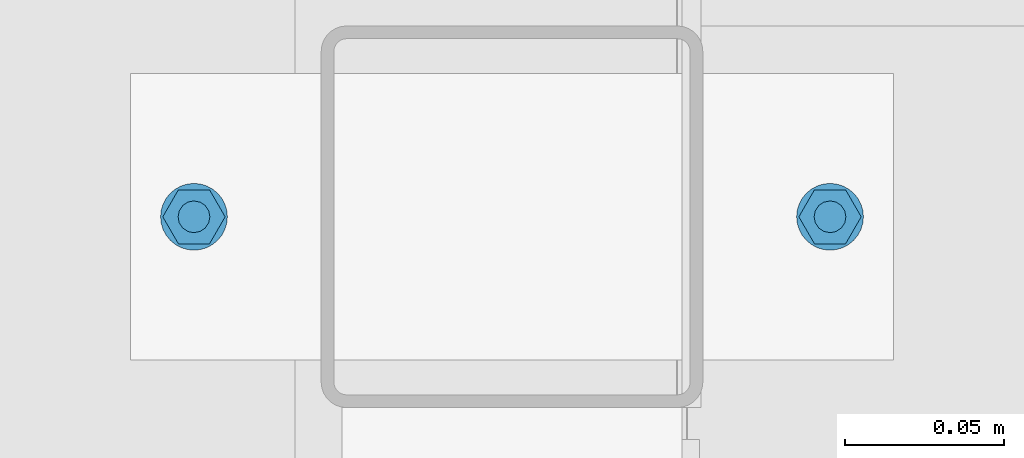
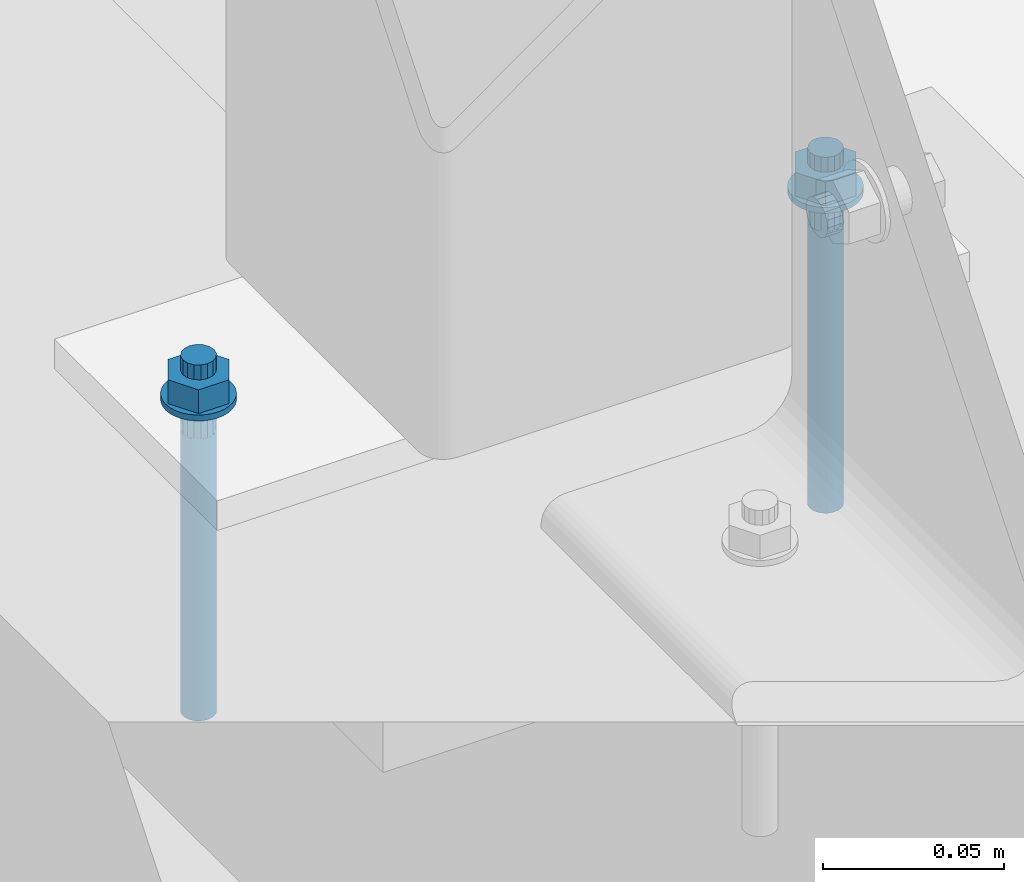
# One storey, part 252 of 476: 1 mechanical fastener.
"""IFC2X3 building model written with IfcOpenShell, lengths in millimetres."""

from ifc_helpers import new_model, entity, si_unit, converted_unit, origin_with_axes, place, context, project, spatial, faceted_brep, element, save


model = new_model("IFC2X3")

# Units and contexts
model_context = context("Model", 3, precision=1e-09, world=origin_with_axes())
ifc_project = project(units=[si_unit("LENGTHUNIT", "METRE", prefix="MILLI"), si_unit("AREAUNIT", "SQUARE_METRE"), si_unit("VOLUMEUNIT", "CUBIC_METRE"), converted_unit("PLANEANGLEUNIT", "DEGREE", entity("IfcPlaneAngleMeasure", 0.01745329), si_unit("PLANEANGLEUNIT", "RADIAN"), dimensions=[0, 0, 0, 0, 0, 0, 0])], contexts=[model_context])

# Site, building, storey
site_placement = place(None, origin_with_axes())
site = spatial("IfcSite", under=ifc_project, at=site_placement, Name="mKR Teilneubau & Sanierung BA1 - Ostfildern", CompositionType="ELEMENT")
building_placement = place(site_placement, origin_with_axes())
building = spatial("IfcBuilding", under=site, at=building_placement, Name="Struktur 1", CompositionType="ELEMENT")
storey_placement = place(building_placement, origin_with_axes())
storey = spatial("IfcBuildingStorey", under=building, at=storey_placement, Name="Default Storey", CompositionType="ELEMENT", Elevation=0.0)

# Mechanical fastener
mechanical_fastener_placement = place(None, origin_with_axes())
element("IfcMechanicalFastener", 1, at=mechanical_fastener_placement, inside=storey, ObjectType="Anchor_Bolt#1", NominalDiameter=10.0, NominalLength=120.0, context=model_context, shape_type="Brep", body=[
    faceted_brep([(22072.108734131, -2068.604698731, 527.0), (22072.108734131, -2068.604698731, 525.0), (22070.06028575, -2068.806453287, 525.0), (22070.06028575, -2068.806453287, 527.0), (22068.090558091, -2069.40396364, 525.0), (22068.090558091, -2069.40396364, 527.0), (22066.275246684, -2070.374267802, 525.0), (22066.275246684, -2070.374267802, 527.0), (22064.684112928, -2071.680077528, 525.0), (22064.684112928, -2071.680077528, 527.0), (22063.378303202, -2073.271211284, 525.0), (22063.378303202, -2073.271211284, 527.0), (22062.407999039, -2075.086522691, 525.0), (22062.407999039, -2075.086522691, 527.0), (22061.810488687, -2077.05625035, 525.0), (22061.810488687, -2077.05625035, 527.0), (22061.608734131, -2079.104698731, 525.0), (22061.608734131, -2079.104698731, 527.0), (22061.810488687, -2081.153147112, 525.0), (22061.810488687, -2081.153147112, 527.0), (22062.407999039, -2083.122874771, 525.0), (22062.407999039, -2083.122874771, 527.0), (22063.378303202, -2084.938186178, 525.0), (22063.378303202, -2084.938186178, 527.0), (22064.684112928, -2086.529319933, 525.0), (22064.684112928, -2086.529319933, 527.0), (22066.275246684, -2087.83512966, 525.0), (22066.275246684, -2087.83512966, 527.0), (22068.090558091, -2088.805433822, 525.0), (22068.090558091, -2088.805433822, 527.0), (22070.06028575, -2089.402944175, 525.0), (22070.06028575, -2089.402944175, 527.0), (22072.108734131, -2089.604698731, 525.0), (22072.108734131, -2089.604698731, 527.0), (22074.157182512, -2089.402944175, 525.0), (22074.157182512, -2089.402944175, 527.0), (22076.126910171, -2088.805433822, 525.0), (22076.126910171, -2088.805433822, 527.0), (22077.942221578, -2087.83512966, 525.0), (22077.942221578, -2087.83512966, 527.0), (22079.533355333, -2086.529319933, 525.0), (22079.533355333, -2086.529319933, 527.0), (22080.83916506, -2084.938186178, 525.0), (22080.83916506, -2084.938186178, 527.0), (22081.809469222, -2083.122874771, 525.0), (22081.809469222, -2083.122874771, 527.0), (22082.406979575, -2081.153147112, 525.0), (22082.406979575, -2081.153147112, 527.0), (22082.608734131, -2079.104698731, 525.0), (22082.608734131, -2079.104698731, 527.0), (22082.406979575, -2077.05625035, 525.0), (22082.406979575, -2077.05625035, 527.0), (22081.809469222, -2075.086522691, 525.0), (22081.809469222, -2075.086522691, 527.0), (22080.83916506, -2073.271211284, 525.0), (22080.83916506, -2073.271211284, 527.0), (22079.533355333, -2071.680077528, 525.0), (22079.533355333, -2071.680077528, 527.0), (22077.942221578, -2070.374267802, 525.0), (22077.942221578, -2070.374267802, 527.0), (22076.126910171, -2069.40396364, 525.0), (22076.126910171, -2069.40396364, 527.0), (22074.157182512, -2068.806453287, 525.0), (22074.157182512, -2068.806453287, 527.0)], [[[0, 1, 2, 3]], [[3, 2, 4, 5]], [[5, 4, 6, 7]], [[7, 6, 8, 9]], [[9, 8, 10, 11]], [[11, 10, 12, 13]], [[13, 12, 14, 15]], [[15, 14, 16, 17]], [[17, 16, 18, 19]], [[19, 18, 20, 21]], [[21, 20, 22, 23]], [[23, 22, 24, 25]], [[25, 24, 26, 27]], [[27, 26, 28, 29]], [[29, 28, 30, 31]], [[31, 30, 32, 33]], [[33, 32, 34, 35]], [[35, 34, 36, 37]], [[37, 36, 38, 39]], [[39, 38, 40, 41]], [[41, 40, 42, 43]], [[43, 42, 44, 45]], [[45, 44, 46, 47]], [[47, 46, 48, 49]], [[49, 48, 50, 51]], [[51, 50, 52, 53]], [[53, 52, 54, 55]], [[55, 54, 56, 57]], [[57, 56, 58, 59]], [[59, 58, 60, 61]], [[61, 60, 62, 63]], [[63, 62, 1, 0]], [[0, 3, 5, 7, 9, 11, 13, 15, 17, 19, 21, 23, 25, 27, 29, 31, 33, 35, 37, 39, 41, 43, 45, 47, 49, 51, 53, 55, 57, 59, 61, 63]], [[1, 62, 60, 58, 56, 54, 52, 50, 48, 46, 44, 42, 40, 38, 36, 34, 32, 30, 28, 26, 24, 22, 20, 18, 16, 14, 12, 10, 8, 6, 4, 2]]]),
    faceted_brep([(21872.108734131, -2068.604698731, 527.0), (21872.108734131, -2068.604698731, 525.0), (21870.06028575, -2068.806453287, 525.0), (21870.06028575, -2068.806453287, 527.0), (21868.090558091, -2069.40396364, 525.0), (21868.090558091, -2069.40396364, 527.0), (21866.275246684, -2070.374267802, 525.0), (21866.275246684, -2070.374267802, 527.0), (21864.684112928, -2071.680077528, 525.0), (21864.684112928, -2071.680077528, 527.0), (21863.378303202, -2073.271211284, 525.0), (21863.378303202, -2073.271211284, 527.0), (21862.407999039, -2075.086522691, 525.0), (21862.407999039, -2075.086522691, 527.0), (21861.810488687, -2077.05625035, 525.0), (21861.810488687, -2077.05625035, 527.0), (21861.608734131, -2079.104698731, 525.0), (21861.608734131, -2079.104698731, 527.0), (21861.810488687, -2081.153147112, 525.0), (21861.810488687, -2081.153147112, 527.0), (21862.407999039, -2083.122874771, 525.0), (21862.407999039, -2083.122874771, 527.0), (21863.378303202, -2084.938186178, 525.0), (21863.378303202, -2084.938186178, 527.0), (21864.684112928, -2086.529319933, 525.0), (21864.684112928, -2086.529319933, 527.0), (21866.275246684, -2087.83512966, 525.0), (21866.275246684, -2087.83512966, 527.0), (21868.090558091, -2088.805433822, 525.0), (21868.090558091, -2088.805433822, 527.0), (21870.06028575, -2089.402944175, 525.0), (21870.06028575, -2089.402944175, 527.0), (21872.108734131, -2089.604698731, 525.0), (21872.108734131, -2089.604698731, 527.0), (21874.157182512, -2089.402944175, 525.0), (21874.157182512, -2089.402944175, 527.0), (21876.126910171, -2088.805433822, 525.0), (21876.126910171, -2088.805433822, 527.0), (21877.942221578, -2087.83512966, 525.0), (21877.942221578, -2087.83512966, 527.0), (21879.533355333, -2086.529319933, 525.0), (21879.533355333, -2086.529319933, 527.0), (21880.83916506, -2084.938186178, 525.0), (21880.83916506, -2084.938186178, 527.0), (21881.809469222, -2083.122874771, 525.0), (21881.809469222, -2083.122874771, 527.0), (21882.406979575, -2081.153147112, 525.0), (21882.406979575, -2081.153147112, 527.0), (21882.608734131, -2079.104698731, 525.0), (21882.608734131, -2079.104698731, 527.0), (21882.406979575, -2077.05625035, 525.0), (21882.406979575, -2077.05625035, 527.0), (21881.809469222, -2075.086522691, 525.0), (21881.809469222, -2075.086522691, 527.0), (21880.83916506, -2073.271211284, 525.0), (21880.83916506, -2073.271211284, 527.0), (21879.533355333, -2071.680077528, 525.0), (21879.533355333, -2071.680077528, 527.0), (21877.942221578, -2070.374267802, 525.0), (21877.942221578, -2070.374267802, 527.0), (21876.126910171, -2069.40396364, 525.0), (21876.126910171, -2069.40396364, 527.0), (21874.157182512, -2068.806453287, 525.0), (21874.157182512, -2068.806453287, 527.0)], [[[0, 1, 2, 3]], [[3, 2, 4, 5]], [[5, 4, 6, 7]], [[7, 6, 8, 9]], [[9, 8, 10, 11]], [[11, 10, 12, 13]], [[13, 12, 14, 15]], [[15, 14, 16, 17]], [[17, 16, 18, 19]], [[19, 18, 20, 21]], [[21, 20, 22, 23]], [[23, 22, 24, 25]], [[25, 24, 26, 27]], [[27, 26, 28, 29]], [[29, 28, 30, 31]], [[31, 30, 32, 33]], [[33, 32, 34, 35]], [[35, 34, 36, 37]], [[37, 36, 38, 39]], [[39, 38, 40, 41]], [[41, 40, 42, 43]], [[43, 42, 44, 45]], [[45, 44, 46, 47]], [[47, 46, 48, 49]], [[49, 48, 50, 51]], [[51, 50, 52, 53]], [[53, 52, 54, 55]], [[55, 54, 56, 57]], [[57, 56, 58, 59]], [[59, 58, 60, 61]], [[61, 60, 62, 63]], [[63, 62, 1, 0]], [[0, 3, 5, 7, 9, 11, 13, 15, 17, 19, 21, 23, 25, 27, 29, 31, 33, 35, 37, 39, 41, 43, 45, 47, 49, 51, 53, 55, 57, 59, 61, 63]], [[1, 62, 60, 58, 56, 54, 52, 50, 48, 46, 44, 42, 40, 38, 36, 34, 32, 30, 28, 26, 24, 22, 20, 18, 16, 14, 12, 10, 8, 6, 4, 2]]]),
    faceted_brep([(22067.208734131, -2087.591747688, 527.0), (22067.208734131, -2087.591747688, 535.0), (22062.308734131, -2079.104698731, 535.0), (22062.308734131, -2079.104698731, 527.0), (22067.208734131, -2070.617649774, 535.0), (22067.208734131, -2070.617649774, 527.0), (22077.008734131, -2070.617649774, 535.0), (22077.008734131, -2070.617649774, 527.0), (22081.908734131, -2079.104698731, 535.0), (22081.908734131, -2079.104698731, 527.0), (22077.008734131, -2087.591747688, 535.0), (22077.008734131, -2087.591747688, 527.0)], [[[0, 1, 2, 3]], [[3, 2, 4, 5]], [[5, 4, 6, 7]], [[7, 6, 8, 9]], [[9, 8, 10, 11]], [[11, 10, 1, 0]], [[4, 2, 1, 10, 8, 6]], [[0, 3, 5, 7, 9, 11]]]),
    faceted_brep([(21867.208734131, -2087.591747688, 527.0), (21867.208734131, -2087.591747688, 535.0), (21862.308734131, -2079.104698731, 535.0), (21862.308734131, -2079.104698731, 527.0), (21867.208734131, -2070.617649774, 535.0), (21867.208734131, -2070.617649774, 527.0), (21877.008734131, -2070.617649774, 535.0), (21877.008734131, -2070.617649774, 527.0), (21881.908734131, -2079.104698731, 535.0), (21881.908734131, -2079.104698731, 527.0), (21877.008734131, -2087.591747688, 535.0), (21877.008734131, -2087.591747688, 527.0)], [[[0, 1, 2, 3]], [[3, 2, 4, 5]], [[5, 4, 6, 7]], [[7, 6, 8, 9]], [[9, 8, 10, 11]], [[11, 10, 1, 0]], [[4, 2, 1, 10, 8, 6]], [[0, 3, 5, 7, 9, 11]]]),
    faceted_brep([(22072.108734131, -2074.104698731, 540.0), (22072.108734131, -2074.104698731, 535.0), (22070.195316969, -2074.485301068, 535.0), (22070.195316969, -2074.485301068, 540.0), (22068.573200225, -2075.569164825, 535.0), (22068.573200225, -2075.569164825, 540.0), (22067.489336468, -2077.191281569, 535.0), (22067.489336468, -2077.191281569, 540.0), (22067.108734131, -2079.104698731, 535.0), (22067.108734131, -2079.104698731, 540.0), (22067.489336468, -2081.018115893, 535.0), (22067.489336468, -2081.018115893, 540.0), (22068.573200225, -2082.640232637, 535.0), (22068.573200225, -2082.640232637, 540.0), (22070.195316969, -2083.724096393, 535.0), (22070.195316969, -2083.724096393, 540.0), (22072.108734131, -2084.104698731, 535.0), (22072.108734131, -2084.104698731, 540.0), (22074.022151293, -2083.724096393, 535.0), (22074.022151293, -2083.724096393, 540.0), (22075.644268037, -2082.640232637, 535.0), (22075.644268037, -2082.640232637, 540.0), (22076.728131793, -2081.018115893, 535.0), (22076.728131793, -2081.018115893, 540.0), (22077.108734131, -2079.104698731, 535.0), (22077.108734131, -2079.104698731, 540.0), (22076.728131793, -2077.191281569, 535.0), (22076.728131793, -2077.191281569, 540.0), (22075.644268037, -2075.569164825, 535.0), (22075.644268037, -2075.569164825, 540.0), (22074.022151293, -2074.485301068, 535.0), (22074.022151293, -2074.485301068, 540.0)], [[[0, 1, 2, 3]], [[3, 2, 4, 5]], [[5, 4, 6, 7]], [[7, 6, 8, 9]], [[9, 8, 10, 11]], [[11, 10, 12, 13]], [[13, 12, 14, 15]], [[15, 14, 16, 17]], [[17, 16, 18, 19]], [[19, 18, 20, 21]], [[21, 20, 22, 23]], [[23, 22, 24, 25]], [[25, 24, 26, 27]], [[27, 26, 28, 29]], [[29, 28, 30, 31]], [[31, 30, 1, 0]], [[0, 3, 5, 7, 9, 11, 13, 15, 17, 19, 21, 23, 25, 27, 29, 31]], [[1, 30, 28, 26, 24, 22, 20, 18, 16, 14, 12, 10, 8, 6, 4, 2]]]),
    faceted_brep([(21872.108734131, -2074.104698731, 540.0), (21872.108734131, -2074.104698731, 535.0), (21870.195316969, -2074.485301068, 535.0), (21870.195316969, -2074.485301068, 540.0), (21868.573200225, -2075.569164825, 535.0), (21868.573200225, -2075.569164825, 540.0), (21867.489336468, -2077.191281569, 535.0), (21867.489336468, -2077.191281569, 540.0), (21867.108734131, -2079.104698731, 535.0), (21867.108734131, -2079.104698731, 540.0), (21867.489336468, -2081.018115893, 535.0), (21867.489336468, -2081.018115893, 540.0), (21868.573200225, -2082.640232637, 535.0), (21868.573200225, -2082.640232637, 540.0), (21870.195316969, -2083.724096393, 535.0), (21870.195316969, -2083.724096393, 540.0), (21872.108734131, -2084.104698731, 535.0), (21872.108734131, -2084.104698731, 540.0), (21874.022151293, -2083.724096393, 535.0), (21874.022151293, -2083.724096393, 540.0), (21875.644268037, -2082.640232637, 535.0), (21875.644268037, -2082.640232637, 540.0), (21876.728131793, -2081.018115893, 535.0), (21876.728131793, -2081.018115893, 540.0), (21877.108734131, -2079.104698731, 535.0), (21877.108734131, -2079.104698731, 540.0), (21876.728131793, -2077.191281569, 535.0), (21876.728131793, -2077.191281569, 540.0), (21875.644268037, -2075.569164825, 535.0), (21875.644268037, -2075.569164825, 540.0), (21874.022151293, -2074.485301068, 535.0), (21874.022151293, -2074.485301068, 540.0)], [[[0, 1, 2, 3]], [[3, 2, 4, 5]], [[5, 4, 6, 7]], [[7, 6, 8, 9]], [[9, 8, 10, 11]], [[11, 10, 12, 13]], [[13, 12, 14, 15]], [[15, 14, 16, 17]], [[17, 16, 18, 19]], [[19, 18, 20, 21]], [[21, 20, 22, 23]], [[23, 22, 24, 25]], [[25, 24, 26, 27]], [[27, 26, 28, 29]], [[29, 28, 30, 31]], [[31, 30, 1, 0]], [[0, 3, 5, 7, 9, 11, 13, 15, 17, 19, 21, 23, 25, 27, 29, 31]], [[1, 30, 28, 26, 24, 22, 20, 18, 16, 14, 12, 10, 8, 6, 4, 2]]]),
    faceted_brep([(22072.108734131, -2074.104698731, 525.0), (22072.108734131, -2074.104698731, 515.0), (22070.195316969, -2074.485301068, 515.0), (22070.195316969, -2074.485301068, 525.0), (22068.573200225, -2075.569164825, 515.0), (22068.573200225, -2075.569164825, 525.0), (22067.489336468, -2077.191281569, 515.0), (22067.489336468, -2077.191281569, 525.0), (22067.108734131, -2079.104698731, 515.0), (22067.108734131, -2079.104698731, 525.0), (22067.489336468, -2081.018115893, 515.0), (22067.489336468, -2081.018115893, 525.0), (22068.573200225, -2082.640232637, 515.0), (22068.573200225, -2082.640232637, 525.0), (22070.195316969, -2083.724096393, 515.0), (22070.195316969, -2083.724096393, 525.0), (22072.108734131, -2084.104698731, 515.0), (22072.108734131, -2084.104698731, 525.0), (22074.022151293, -2083.724096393, 515.0), (22074.022151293, -2083.724096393, 525.0), (22075.644268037, -2082.640232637, 515.0), (22075.644268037, -2082.640232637, 525.0), (22076.728131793, -2081.018115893, 515.0), (22076.728131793, -2081.018115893, 525.0), (22077.108734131, -2079.104698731, 515.0), (22077.108734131, -2079.104698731, 525.0), (22076.728131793, -2077.191281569, 515.0), (22076.728131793, -2077.191281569, 525.0), (22075.644268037, -2075.569164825, 515.0), (22075.644268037, -2075.569164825, 525.0), (22074.022151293, -2074.485301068, 515.0), (22074.022151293, -2074.485301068, 525.0)], [[[0, 1, 2, 3]], [[3, 2, 4, 5]], [[5, 4, 6, 7]], [[7, 6, 8, 9]], [[9, 8, 10, 11]], [[11, 10, 12, 13]], [[13, 12, 14, 15]], [[15, 14, 16, 17]], [[17, 16, 18, 19]], [[19, 18, 20, 21]], [[21, 20, 22, 23]], [[23, 22, 24, 25]], [[25, 24, 26, 27]], [[27, 26, 28, 29]], [[29, 28, 30, 31]], [[31, 30, 1, 0]], [[0, 3, 5, 7, 9, 11, 13, 15, 17, 19, 21, 23, 25, 27, 29, 31]], [[1, 30, 28, 26, 24, 22, 20, 18, 16, 14, 12, 10, 8, 6, 4, 2]]]),
    faceted_brep([(21872.108734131, -2074.104698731, 525.0), (21872.108734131, -2074.104698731, 515.0), (21870.195316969, -2074.485301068, 515.0), (21870.195316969, -2074.485301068, 525.0), (21868.573200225, -2075.569164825, 515.0), (21868.573200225, -2075.569164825, 525.0), (21867.489336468, -2077.191281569, 515.0), (21867.489336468, -2077.191281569, 525.0), (21867.108734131, -2079.104698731, 515.0), (21867.108734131, -2079.104698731, 525.0), (21867.489336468, -2081.018115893, 515.0), (21867.489336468, -2081.018115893, 525.0), (21868.573200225, -2082.640232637, 515.0), (21868.573200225, -2082.640232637, 525.0), (21870.195316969, -2083.724096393, 515.0), (21870.195316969, -2083.724096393, 525.0), (21872.108734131, -2084.104698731, 515.0), (21872.108734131, -2084.104698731, 525.0), (21874.022151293, -2083.724096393, 515.0), (21874.022151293, -2083.724096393, 525.0), (21875.644268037, -2082.640232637, 515.0), (21875.644268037, -2082.640232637, 525.0), (21876.728131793, -2081.018115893, 515.0), (21876.728131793, -2081.018115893, 525.0), (21877.108734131, -2079.104698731, 515.0), (21877.108734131, -2079.104698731, 525.0), (21876.728131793, -2077.191281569, 515.0), (21876.728131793, -2077.191281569, 525.0), (21875.644268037, -2075.569164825, 515.0), (21875.644268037, -2075.569164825, 525.0), (21874.022151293, -2074.485301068, 515.0), (21874.022151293, -2074.485301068, 525.0)], [[[0, 1, 2, 3]], [[3, 2, 4, 5]], [[5, 4, 6, 7]], [[7, 6, 8, 9]], [[9, 8, 10, 11]], [[11, 10, 12, 13]], [[13, 12, 14, 15]], [[15, 14, 16, 17]], [[17, 16, 18, 19]], [[19, 18, 20, 21]], [[21, 20, 22, 23]], [[23, 22, 24, 25]], [[25, 24, 26, 27]], [[27, 26, 28, 29]], [[29, 28, 30, 31]], [[31, 30, 1, 0]], [[0, 3, 5, 7, 9, 11, 13, 15, 17, 19, 21, 23, 25, 27, 29, 31]], [[1, 30, 28, 26, 24, 22, 20, 18, 16, 14, 12, 10, 8, 6, 4, 2]]]),
    faceted_brep([(22072.108734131, -2074.104698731, 515.0), (22072.108734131, -2074.104698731, 420.0), (22071.133282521, -2074.200772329, 420.0), (22071.133282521, -2074.200772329, 515.0), (22070.195316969, -2074.485301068, 420.0), (22070.195316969, -2074.485301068, 515.0), (22069.330882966, -2074.947350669, 420.0), (22069.330882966, -2074.947350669, 515.0), (22068.573200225, -2075.569164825, 420.0), (22068.573200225, -2075.569164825, 515.0), (22067.951386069, -2076.326847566, 420.0), (22067.951386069, -2076.326847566, 515.0), (22067.489336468, -2077.191281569, 420.0), (22067.489336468, -2077.191281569, 515.0), (22067.204807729, -2078.129247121, 420.0), (22067.204807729, -2078.129247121, 515.0), (22067.108734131, -2079.104698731, 420.0), (22067.108734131, -2079.104698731, 515.0), (22067.204807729, -2080.080150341, 420.0), (22067.204807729, -2080.080150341, 515.0), (22067.489336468, -2081.018115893, 420.0), (22067.489336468, -2081.018115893, 515.0), (22067.951386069, -2081.882549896, 420.0), (22067.951386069, -2081.882549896, 515.0), (22068.573200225, -2082.640232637, 420.0), (22068.573200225, -2082.640232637, 515.0), (22069.330882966, -2083.262046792, 420.0), (22069.330882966, -2083.262046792, 515.0), (22070.195316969, -2083.724096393, 420.0), (22070.195316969, -2083.724096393, 515.0), (22071.133282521, -2084.008625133, 420.0), (22071.133282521, -2084.008625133, 515.0), (22072.108734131, -2084.104698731, 420.0), (22072.108734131, -2084.104698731, 515.0), (22073.084185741, -2084.008625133, 420.0), (22073.084185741, -2084.008625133, 515.0), (22074.022151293, -2083.724096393, 420.0), (22074.022151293, -2083.724096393, 515.0), (22074.886585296, -2083.262046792, 420.0), (22074.886585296, -2083.262046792, 515.0), (22075.644268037, -2082.640232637, 420.0), (22075.644268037, -2082.640232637, 515.0), (22076.266082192, -2081.882549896, 420.0), (22076.266082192, -2081.882549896, 515.0), (22076.728131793, -2081.018115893, 420.0), (22076.728131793, -2081.018115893, 515.0), (22077.012660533, -2080.080150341, 420.0), (22077.012660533, -2080.080150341, 515.0), (22077.108734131, -2079.104698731, 420.0), (22077.108734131, -2079.104698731, 515.0), (22077.012660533, -2078.129247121, 420.0), (22077.012660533, -2078.129247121, 515.0), (22076.728131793, -2077.191281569, 420.0), (22076.728131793, -2077.191281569, 515.0), (22076.266082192, -2076.326847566, 420.0), (22076.266082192, -2076.326847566, 515.0), (22075.644268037, -2075.569164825, 420.0), (22075.644268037, -2075.569164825, 515.0), (22074.886585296, -2074.947350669, 420.0), (22074.886585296, -2074.947350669, 515.0), (22074.022151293, -2074.485301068, 420.0), (22074.022151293, -2074.485301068, 515.0), (22073.084185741, -2074.200772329, 420.0), (22073.084185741, -2074.200772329, 515.0)], [[[0, 1, 2, 3]], [[3, 2, 4, 5]], [[5, 4, 6, 7]], [[7, 6, 8, 9]], [[9, 8, 10, 11]], [[11, 10, 12, 13]], [[13, 12, 14, 15]], [[15, 14, 16, 17]], [[17, 16, 18, 19]], [[19, 18, 20, 21]], [[21, 20, 22, 23]], [[23, 22, 24, 25]], [[25, 24, 26, 27]], [[27, 26, 28, 29]], [[29, 28, 30, 31]], [[31, 30, 32, 33]], [[33, 32, 34, 35]], [[35, 34, 36, 37]], [[37, 36, 38, 39]], [[39, 38, 40, 41]], [[41, 40, 42, 43]], [[43, 42, 44, 45]], [[45, 44, 46, 47]], [[47, 46, 48, 49]], [[49, 48, 50, 51]], [[51, 50, 52, 53]], [[53, 52, 54, 55]], [[55, 54, 56, 57]], [[57, 56, 58, 59]], [[59, 58, 60, 61]], [[61, 60, 62, 63]], [[63, 62, 1, 0]], [[0, 3, 5, 7, 9, 11, 13, 15, 17, 19, 21, 23, 25, 27, 29, 31, 33, 35, 37, 39, 41, 43, 45, 47, 49, 51, 53, 55, 57, 59, 61, 63]], [[1, 62, 60, 58, 56, 54, 52, 50, 48, 46, 44, 42, 40, 38, 36, 34, 32, 30, 28, 26, 24, 22, 20, 18, 16, 14, 12, 10, 8, 6, 4, 2]]]),
    faceted_brep([(21872.108734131, -2074.104698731, 515.0), (21872.108734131, -2074.104698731, 420.0), (21871.133282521, -2074.200772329, 420.0), (21871.133282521, -2074.200772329, 515.0), (21870.195316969, -2074.485301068, 420.0), (21870.195316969, -2074.485301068, 515.0), (21869.330882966, -2074.947350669, 420.0), (21869.330882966, -2074.947350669, 515.0), (21868.573200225, -2075.569164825, 420.0), (21868.573200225, -2075.569164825, 515.0), (21867.951386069, -2076.326847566, 420.0), (21867.951386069, -2076.326847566, 515.0), (21867.489336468, -2077.191281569, 420.0), (21867.489336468, -2077.191281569, 515.0), (21867.204807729, -2078.129247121, 420.0), (21867.204807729, -2078.129247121, 515.0), (21867.108734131, -2079.104698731, 420.0), (21867.108734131, -2079.104698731, 515.0), (21867.204807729, -2080.080150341, 420.0), (21867.204807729, -2080.080150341, 515.0), (21867.489336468, -2081.018115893, 420.0), (21867.489336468, -2081.018115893, 515.0), (21867.951386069, -2081.882549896, 420.0), (21867.951386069, -2081.882549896, 515.0), (21868.573200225, -2082.640232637, 420.0), (21868.573200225, -2082.640232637, 515.0), (21869.330882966, -2083.262046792, 420.0), (21869.330882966, -2083.262046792, 515.0), (21870.195316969, -2083.724096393, 420.0), (21870.195316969, -2083.724096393, 515.0), (21871.133282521, -2084.008625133, 420.0), (21871.133282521, -2084.008625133, 515.0), (21872.108734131, -2084.104698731, 420.0), (21872.108734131, -2084.104698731, 515.0), (21873.084185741, -2084.008625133, 420.0), (21873.084185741, -2084.008625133, 515.0), (21874.022151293, -2083.724096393, 420.0), (21874.022151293, -2083.724096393, 515.0), (21874.886585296, -2083.262046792, 420.0), (21874.886585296, -2083.262046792, 515.0), (21875.644268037, -2082.640232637, 420.0), (21875.644268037, -2082.640232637, 515.0), (21876.266082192, -2081.882549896, 420.0), (21876.266082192, -2081.882549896, 515.0), (21876.728131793, -2081.018115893, 420.0), (21876.728131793, -2081.018115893, 515.0), (21877.012660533, -2080.080150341, 420.0), (21877.012660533, -2080.080150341, 515.0), (21877.108734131, -2079.104698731, 420.0), (21877.108734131, -2079.104698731, 515.0), (21877.012660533, -2078.129247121, 420.0), (21877.012660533, -2078.129247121, 515.0), (21876.728131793, -2077.191281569, 420.0), (21876.728131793, -2077.191281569, 515.0), (21876.266082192, -2076.326847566, 420.0), (21876.266082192, -2076.326847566, 515.0), (21875.644268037, -2075.569164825, 420.0), (21875.644268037, -2075.569164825, 515.0), (21874.886585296, -2074.947350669, 420.0), (21874.886585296, -2074.947350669, 515.0), (21874.022151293, -2074.485301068, 420.0), (21874.022151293, -2074.485301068, 515.0), (21873.084185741, -2074.200772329, 420.0), (21873.084185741, -2074.200772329, 515.0)], [[[0, 1, 2, 3]], [[3, 2, 4, 5]], [[5, 4, 6, 7]], [[7, 6, 8, 9]], [[9, 8, 10, 11]], [[11, 10, 12, 13]], [[13, 12, 14, 15]], [[15, 14, 16, 17]], [[17, 16, 18, 19]], [[19, 18, 20, 21]], [[21, 20, 22, 23]], [[23, 22, 24, 25]], [[25, 24, 26, 27]], [[27, 26, 28, 29]], [[29, 28, 30, 31]], [[31, 30, 32, 33]], [[33, 32, 34, 35]], [[35, 34, 36, 37]], [[37, 36, 38, 39]], [[39, 38, 40, 41]], [[41, 40, 42, 43]], [[43, 42, 44, 45]], [[45, 44, 46, 47]], [[47, 46, 48, 49]], [[49, 48, 50, 51]], [[51, 50, 52, 53]], [[53, 52, 54, 55]], [[55, 54, 56, 57]], [[57, 56, 58, 59]], [[59, 58, 60, 61]], [[61, 60, 62, 63]], [[63, 62, 1, 0]], [[0, 3, 5, 7, 9, 11, 13, 15, 17, 19, 21, 23, 25, 27, 29, 31, 33, 35, 37, 39, 41, 43, 45, 47, 49, 51, 53, 55, 57, 59, 61, 63]], [[1, 62, 60, 58, 56, 54, 52, 50, 48, 46, 44, 42, 40, 38, 36, 34, 32, 30, 28, 26, 24, 22, 20, 18, 16, 14, 12, 10, 8, 6, 4, 2]]]),
])

save(model, "model.ifc")
